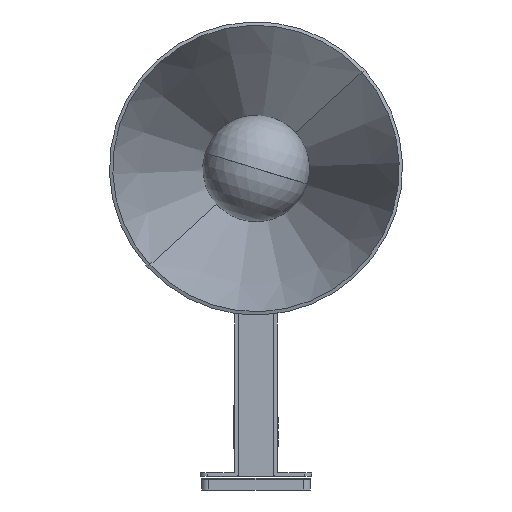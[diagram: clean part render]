
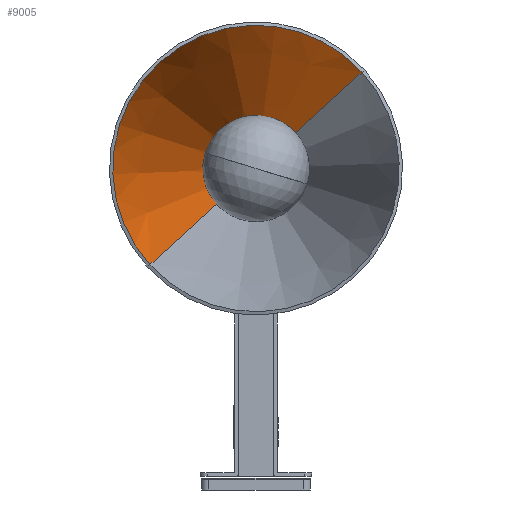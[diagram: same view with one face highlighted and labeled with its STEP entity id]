
A CAD part, front view. The second image highlights one B-rep face of the part: STEP entity #9005.
In plain terms, the highlighted conical face has half-angle 19.5 degrees and reference radius 16.008 mm.
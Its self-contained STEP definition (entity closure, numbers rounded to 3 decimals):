
#99 = EDGE_CURVE ( 'NONE', #5884, #1834, #8440, .T. ) ;
#411 = DIRECTION ( 'NONE',  ( 0., 0., 1. ) ) ;
#1074 = ORIENTED_EDGE ( 'NONE', *, *, #7348, .F. ) ;
#1834 = VERTEX_POINT ( 'NONE', #5364 ) ;
#1986 = CARTESIAN_POINT ( 'NONE',  ( 137., 0., 0. ) ) ;
#2034 = DIRECTION ( 'NONE',  ( 0.943, 0., -0.334 ) ) ;
#2055 = AXIS2_PLACEMENT_3D ( 'NONE', #14693, #7529, #411 ) ;
#2079 = CONICAL_SURFACE ( 'NONE', #9410, 16.008, 0.34 ) ;
#3001 = VERTEX_POINT ( 'NONE', #3274 ) ;
#3041 = VECTOR ( 'NONE', #2034, 1000. ) ;
#3274 = CARTESIAN_POINT ( 'NONE',  ( 11.487, 0., -16.008 ) ) ;
#4687 = VECTOR ( 'NONE', #13568, 1000. ) ;
#5364 = CARTESIAN_POINT ( 'NONE',  ( 137., 0., 60.455 ) ) ;
#5398 = EDGE_CURVE ( 'NONE', #3001, #5884, #14749, .T. ) ;
#5884 = VERTEX_POINT ( 'NONE', #9021 ) ;
#6220 = LINE ( 'NONE', #8913, #3041 ) ;
#6479 = VERTEX_POINT ( 'NONE', #15366 ) ;
#7348 = EDGE_CURVE ( 'NONE', #6479, #1834, #8622, .T. ) ;
#7380 = EDGE_CURVE ( 'NONE', #3001, #6479, #6220, .T. ) ;
#7529 = DIRECTION ( 'NONE',  ( -1., 0., 0. ) ) ;
#8187 = DIRECTION ( 'NONE',  ( 0., 0., -1. ) ) ;
#8440 = LINE ( 'NONE', #14741, #4687 ) ;
#8622 = CIRCLE ( 'NONE', #13511, 60.455 ) ;
#8913 = CARTESIAN_POINT ( 'NONE',  ( 11.487, 0., -16.008 ) ) ;
#9005 = ADVANCED_FACE ( 'NONE', ( #12133 ), #2079, .F. ) ;
#9021 = CARTESIAN_POINT ( 'NONE',  ( 11.487, 0., 16.008 ) ) ;
#9410 = AXIS2_PLACEMENT_3D ( 'NONE', #14094, #15440, #8187 ) ;
#11199 = ORIENTED_EDGE ( 'NONE', *, *, #7380, .F. ) ;
#11331 = DIRECTION ( 'NONE',  ( 0., 0., 1. ) ) ;
#12133 = FACE_OUTER_BOUND ( 'NONE', #14017, .T. ) ;
#12837 = ORIENTED_EDGE ( 'NONE', *, *, #99, .T. ) ;
#13178 = ORIENTED_EDGE ( 'NONE', *, *, #5398, .T. ) ;
#13511 = AXIS2_PLACEMENT_3D ( 'NONE', #1986, #14989, #11331 ) ;
#13568 = DIRECTION ( 'NONE',  ( 0.943, 0., 0.334 ) ) ;
#14017 = EDGE_LOOP ( 'NONE', ( #13178, #12837, #1074, #11199 ) ) ;
#14094 = CARTESIAN_POINT ( 'NONE',  ( 11.487, 0., 0. ) ) ;
#14693 = CARTESIAN_POINT ( 'NONE',  ( 11.487, 0., 0. ) ) ;
#14741 = CARTESIAN_POINT ( 'NONE',  ( 11.487, 0., 16.008 ) ) ;
#14749 = CIRCLE ( 'NONE', #2055, 16.008 ) ;
#14989 = DIRECTION ( 'NONE',  ( -1., 0., 0. ) ) ;
#15366 = CARTESIAN_POINT ( 'NONE',  ( 137., 0., -60.455 ) ) ;
#15440 = DIRECTION ( 'NONE',  ( 1., 0., 0. ) ) ;
